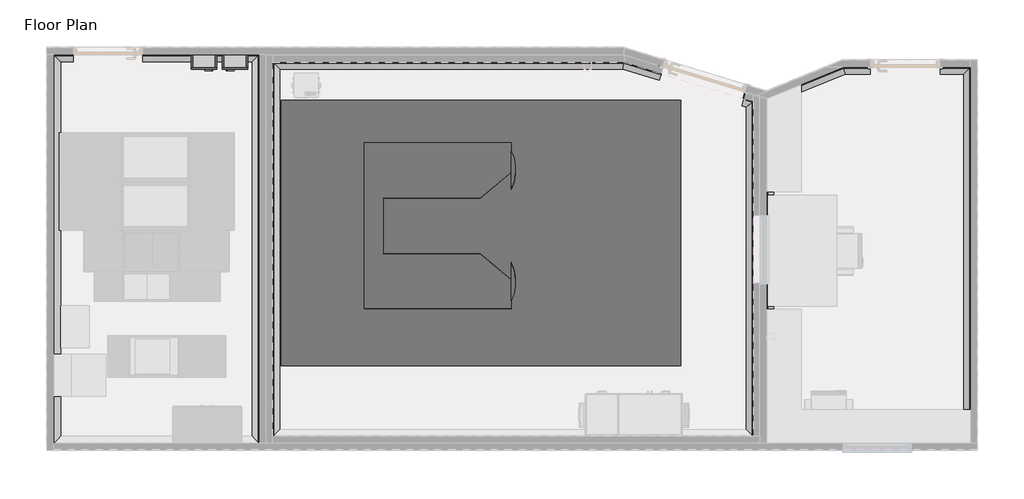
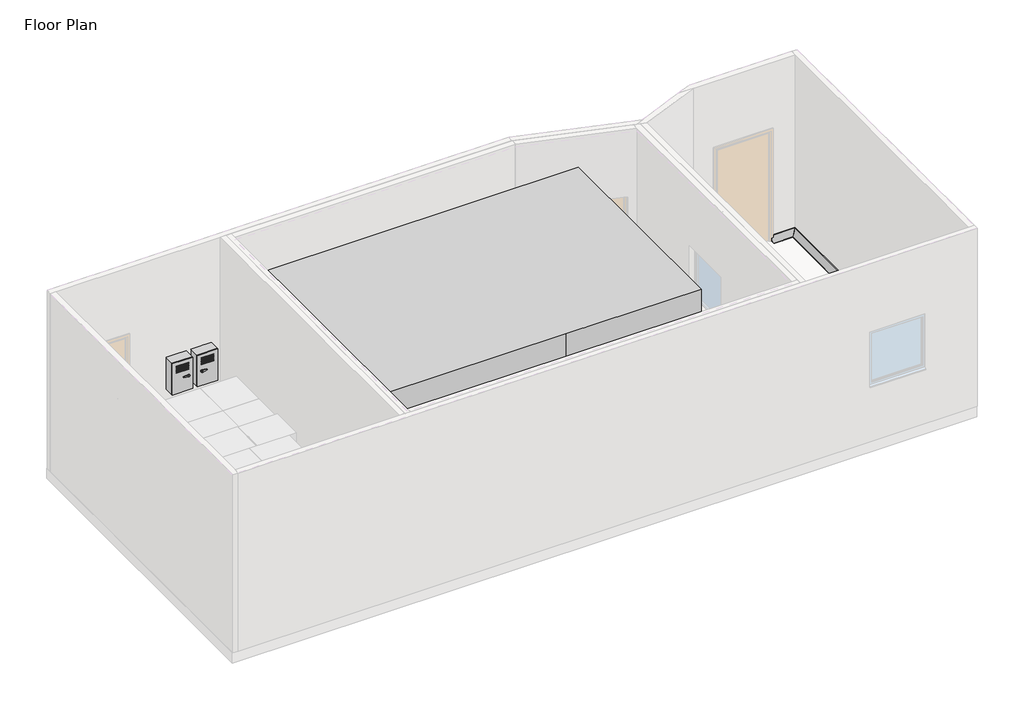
# One storey, part 2 of 2: 14 proxies.
"""IFC4 building model written with IfcOpenShell, lengths in millimetres."""

from ifc_helpers import new_model, si_unit, point, frame, frame_2d, origin, place, context, project, spatial, polyline, circle_curve, ellipse_curve, trimmed, segment, composite_curve, outline, extrude, transform, mapped, element, save
from ifc_brep_helpers import plane_surface, revolved_surface, advanced_brep
from components import generic_models_8b75f9c6, type_1_a1218392

model = new_model("IFC4")

# Units and contexts
model_context = context("Model", 3, world=origin())
ifc_project = project(units=[si_unit("LENGTHUNIT", "METRE", prefix="MILLI")], contexts=[model_context])

# Site, building, storey
site = spatial("IfcSite", under=ifc_project)
building = spatial("IfcBuilding", under=site)
storey = spatial("IfcBuildingStorey", under=building, Name="Floor Plan", Elevation=0.0)

# Proxies
placement = place(None, origin())
element("IfcBuildingElementProxy", 1, Name="Wall Sweeps", at=placement, inside=storey, context=model_context, shape_type="AdvancedBrep", body=[
    advanced_brep(
    [(-3162.5889003, 5094.3216085, 0.0), (-3162.5889003, 5094.3216085, 100.0), (-3152.5889003, 5084.3216085, 100.0), (-3062.5889003, 4994.3216085, 10.0), (-3062.5889003, 4994.3216085, 0.0), (-3162.5889003, -523.5240993, 0.0), (-3062.5889003, -423.5240993, 0.0), (-3062.5889003, -423.5240993, 10.0), (-3152.5889003, -513.5240993, 100.0), (-3162.5889003, -523.5240993, 100.0)],
    [
        (0, 1),
        (1, 2),
        (2, 3, ellipse_curve(frame((-3062.5889003, 4994.3216085, 100.0), z_axis=(-0.7071067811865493, -0.7071067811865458, 0.0), x_axis=(0.7071067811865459, -0.7071067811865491, 0.0)), 127.2792206, 90.0)),
        (3, 4),
        (4, 0),
        (5, 6),
        (6, 7),
        (7, 8, ellipse_curve(frame((-3062.5889003, -423.5240993, 100.0), z_axis=(-0.7071067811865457, 0.7071067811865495, 0.0), x_axis=(-0.7071067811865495, -0.7071067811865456, 0.0)), 127.2792206, 90.0)),
        (8, 9),
        (9, 5),
        (0, 5),
        (9, 1),
        (8, 2),
        (7, 3),
        (6, 4),
    ],
    [
        plane_surface(frame((-3162.5889003, 5094.3216085, -304.8), z_axis=(0.7071067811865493, 0.7071067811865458, 0.0), x_axis=(0.7071067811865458, -0.7071067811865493, 0.0))),
        plane_surface(frame((-3162.5889003, -523.5240993, -304.8), z_axis=(0.7071067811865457, -0.7071067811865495, 0.0), x_axis=(0.7071067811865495, 0.7071067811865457, 0.0))),
        plane_surface(frame((-3162.5889003, 5094.3216085, 0.0), z_axis=(-1.0, 0.0, 0.0), x_axis=(0.0, -1.0, 0.0))),
        plane_surface(frame((-3162.5889003, 5094.3216085, 100.0), z_axis=(0.0, 0.0, 1.0), x_axis=(0.0, -1.0, 0.0))),
        revolved_surface(polyline([(-2972.5889003, -513.5240992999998, 100.0), (-2972.5889003, 5084.3216085, 100.0)]), (-3062.5889003, 5094.3216085, 100.0), (0.0, -1.0, 0.0)),
        plane_surface(frame((-3062.5889003, 4994.3216085, 10.0), z_axis=(1.0, 0.0, 0.0), x_axis=(0.0, -1.0, 0.0))),
        plane_surface(frame((-3062.5889003, 4994.3216085, 0.0), z_axis=(0.0, 0.0, -1.0), x_axis=(0.0, -1.0, 0.0))),
    ],
    [
        (0, [[1, 2, 3, 4, 5]]),
        (1, [[6, 7, 8, 9, 10]]),
        (2, [[-1, 11, -10, 12]]),
        (3, [[-2, -12, -9, 13]]),
        (4, [[-3, -13, -8, 14]]),
        (5, [[-4, -14, -7, 15]]),
        (6, [[-5, -15, -6, -11]]),
    ],
),
])
element("IfcBuildingElementProxy", 2, Name="Wall Sweeps", at=placement, inside=storey, context=model_context, shape_type="AdvancedBrep", body=[
    advanced_brep(
    [(10093.9110997, -523.5240993, 0.0), (10093.9110997, -523.5240993, 100.0), (10083.9110997, -513.5240993, 100.0), (9993.9110997, -423.5240993, 10.0), (9993.9110997, -423.5240993, 0.0), (10093.9110997, 4913.3550679, 0.0), (9993.9110997, 4813.3550679, 0.0), (9993.9110997, 4813.3550679, 10.0), (10083.9110997, 4903.3550679, 100.0), (10093.9110997, 4913.3550679, 100.0)],
    [
        (0, 1),
        (1, 2),
        (2, 3, ellipse_curve(frame((9993.9110997, -423.5240993, 100.0), z_axis=(0.7071067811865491, 0.707106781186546, 0.0), x_axis=(-0.707106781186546, 0.7071067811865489, 0.0)), 127.2792206, 90.0)),
        (3, 4),
        (4, 0),
        (5, 6),
        (6, 7),
        (7, 8, ellipse_curve(frame((9993.9110997, 4813.3550679, 100.0), z_axis=(0.7071067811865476, -0.7071067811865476, 0.0), x_axis=(0.7071067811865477, 0.7071067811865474, 0.0)), 127.2792206, 90.0)),
        (8, 9),
        (9, 5),
        (0, 5),
        (9, 1),
        (8, 2),
        (7, 3),
        (6, 4),
    ],
    [
        plane_surface(frame((10093.9110997, -523.5240993, -304.8), z_axis=(-0.7071067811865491, -0.707106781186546, 0.0), x_axis=(-0.707106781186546, 0.7071067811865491, 0.0))),
        plane_surface(frame((10093.9110997, 4913.3550679, -304.8), z_axis=(-0.7071067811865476, 0.7071067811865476, 0.0), x_axis=(-0.7071067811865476, -0.7071067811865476, 0.0))),
        plane_surface(frame((10093.9110997, -523.5240993, 0.0), z_axis=(1.0, 0.0, 0.0), x_axis=(0.0, 1.0, 0.0))),
        plane_surface(frame((10093.9110997, -523.5240993, 100.0), z_axis=(0.0, 0.0, 1.0), x_axis=(0.0, 1.0, 0.0))),
        revolved_surface(polyline([(9903.9110997, 4903.3550679, 100.0), (9903.9110997, -513.5240993, 100.0)]), (9993.9110997, -523.5240993, 100.0), (0.0, 1.0, 0.0)),
        plane_surface(frame((9993.9110997, -423.5240993, 10.0), z_axis=(-1.0, 0.0, 0.0), x_axis=(0.0, 1.0, 0.0))),
        plane_surface(frame((9993.9110997, -423.5240993, 0.0), z_axis=(0.0, 0.0, -1.0), x_axis=(0.0, 1.0, 0.0))),
    ],
    [
        (0, [[1, 2, 3, 4, 5]]),
        (1, [[6, 7, 8, 9, 10]]),
        (2, [[-1, 11, -10, 12]]),
        (3, [[-2, -12, -9, 13]]),
        (4, [[-3, -13, -8, 14]]),
        (5, [[-4, -14, -7, 15]]),
        (6, [[-5, -15, -6, -11]]),
    ],
),
])
element("IfcBuildingElementProxy", 3, Name="Wall Sweeps", at=placement, inside=storey, context=model_context, shape_type="AdvancedBrep", body=[
    advanced_brep(
    [(8643.9110997, 4913.3550679, 0.0), (8643.9110997, 4913.3550679, 100.0), (8643.9110997, 4903.3550679, 100.0), (8643.9110997, 4813.3550679, 10.0), (8643.9110997, 4813.3550679, 0.0), (8260.4584531, 4913.3550679, 0.0), (8280.1050493, 4813.3550679, 0.0), (8280.1050493, 4813.3550679, 10.0), (8262.4231127, 4903.3550679, 100.0), (8260.4584531, 4913.3550679, 100.0)],
    [
        (0, 1),
        (1, 2),
        (2, 3, circle_curve(frame((8643.9110997, 4813.3550679, 100.0), z_axis=(-1.0, 0.0, 0.0), x_axis=(0.0, -1.0, 0.0)), 90.0)),
        (3, 4),
        (4, 0),
        (5, 6),
        (6, 7),
        (7, 8, ellipse_curve(frame((8280.1050493, 4813.3550679, 100.0), z_axis=(0.981241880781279, 0.19278063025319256, 0.0), x_axis=(-0.19278063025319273, 0.9812418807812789, 0.0)), 91.7205042, 90.0)),
        (8, 9),
        (9, 5),
        (0, 5),
        (9, 1),
        (8, 2),
        (7, 3),
        (6, 4),
    ],
    [
        plane_surface(frame((8643.9110997, 4913.3550679, -100.4987562), z_axis=(1.0, 0.0, 0.0), x_axis=(0.0, -1.0, 0.0))),
        plane_surface(frame((8260.4584531, 4913.3550679, -304.8), z_axis=(-0.981241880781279, -0.19278063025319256, 0.0), x_axis=(0.19278063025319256, -0.981241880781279, 0.0))),
        plane_surface(frame((8643.9110997, 4913.3550679, 0.0), z_axis=(0.0, 1.0, 0.0), x_axis=(-1.0, 0.0, 0.0))),
        plane_surface(frame((8643.9110997, 4913.3550679, 100.0), z_axis=(0.0, 0.0, 1.0), x_axis=(-1.0, 0.0, 0.0))),
        revolved_surface(polyline([(8262.423112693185, 4723.3550679, 100.0), (8643.9110997, 4723.3550679, 100.0)]), (8643.9110997, 4813.3550679, 100.0), (-1.0, 0.0, 0.0)),
        plane_surface(frame((8643.9110997, 4813.3550679, 10.0), z_axis=(0.0, -1.0, 0.0), x_axis=(-1.0, 0.0, 0.0))),
        plane_surface(frame((8643.9110997, 4813.3550679, 0.0), z_axis=(0.0, 0.0, -1.0), x_axis=(-1.0, 0.0, 0.0))),
    ],
    [
        (0, [[1, 2, 3, 4, 5]]),
        (1, [[6, 7, 8, 9, 10]]),
        (2, [[-1, 11, -10, 12]]),
        (3, [[-2, -12, -9, 13]]),
        (4, [[-3, -13, -8, 14]]),
        (5, [[-4, -14, -7, 15]]),
        (6, [[-5, -15, -6, -11]]),
    ],
),
    advanced_brep(
    [(10093.9110997, 4913.3550679, 0.0), (10093.9110997, 4913.3550679, 100.0), (10083.9110997, 4903.3550679, 100.0), (9993.9110997, 4813.3550679, 10.0), (9993.9110997, 4813.3550679, 0.0), (9653.9110997, 4913.3550679, 0.0), (9653.9110997, 4813.3550679, 0.0), (9653.9110997, 4813.3550679, 10.0), (9653.9110997, 4903.3550679, 100.0), (9653.9110997, 4913.3550679, 100.0)],
    [
        (0, 1),
        (1, 2),
        (2, 3, ellipse_curve(frame((9993.9110997, 4813.3550679, 100.0), z_axis=(-0.7071067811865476, 0.7071067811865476, 0.0), x_axis=(-0.7071067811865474, -0.7071067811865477, 0.0)), 127.2792206, 90.0)),
        (3, 4),
        (4, 0),
        (5, 6),
        (6, 7),
        (7, 8, circle_curve(frame((9653.9110997, 4813.3550679, 100.0), z_axis=(1.0, 0.0, 0.0), x_axis=(0.0, -1.0, 0.0)), 90.0)),
        (8, 9),
        (9, 5),
        (0, 5),
        (9, 1),
        (8, 2),
        (7, 3),
        (6, 4),
    ],
    [
        plane_surface(frame((10093.9110997, 4913.3550679, -304.8), z_axis=(0.7071067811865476, -0.7071067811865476, 0.0), x_axis=(-0.7071067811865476, -0.7071067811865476, 0.0))),
        plane_surface(frame((9653.9110997, 4913.3550679, -100.4987562), z_axis=(-1.0, 0.0, 0.0), x_axis=(0.0, -1.0, 0.0))),
        plane_surface(frame((10093.9110997, 4913.3550679, 0.0), z_axis=(0.0, 1.0, 0.0), x_axis=(-1.0, 0.0, 0.0))),
        plane_surface(frame((10093.9110997, 4913.3550679, 100.0), z_axis=(0.0, 0.0, 1.0), x_axis=(-1.0, 0.0, 0.0))),
        revolved_surface(polyline([(9653.9110997, 4723.3550679, 100.0), (10083.9110997, 4723.3550679, 100.0)]), (10093.9110997, 4813.3550679, 100.0), (-1.0, 0.0, 0.0)),
        plane_surface(frame((9993.9110997, 4813.3550679, 10.0), z_axis=(0.0, -1.0, 0.0), x_axis=(-1.0, 0.0, 0.0))),
        plane_surface(frame((9993.9110997, 4813.3550679, 0.0), z_axis=(0.0, 0.0, -1.0), x_axis=(-1.0, 0.0, 0.0))),
    ],
    [
        (0, [[1, 2, 3, 4, 5]]),
        (1, [[6, 7, 8, 9, 10]]),
        (2, [[-1, 11, -10, 12]]),
        (3, [[-2, -12, -9, 13]]),
        (4, [[-3, -13, -8, 14]]),
        (5, [[-4, -14, -7, 15]]),
        (6, [[-5, -15, -6, -11]]),
    ],
),
])
element("IfcBuildingElementProxy", 4, Name="Wall Sweeps", at=placement, inside=storey, context=model_context, shape_type="AdvancedBrep", body=[
    advanced_brep(
    [(8260.4584531, 4913.3550679, 0.0), (8260.4584531, 4913.3550679, 100.0), (8262.4231127, 4903.3550679, 100.0), (8280.1050493, 4813.3550679, 10.0), (8280.1050493, 4813.3550679, 0.0), (7148.6928682, 4458.9680498, 0.0), (7248.6928682, 4391.8090947, 0.0), (7248.6928682, 4391.8090947, 10.0), (7158.6928682, 4452.2521543, 100.0), (7148.6928682, 4458.9680498, 100.0)],
    [
        (0, 1),
        (1, 2),
        (2, 3, ellipse_curve(frame((8280.1050493, 4813.3550679, 100.0), z_axis=(-0.981241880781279, -0.19278063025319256, 0.0), x_axis=(0.19278063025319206, -0.9812418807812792, 0.0)), 91.7205042, 90.0)),
        (3, 4),
        (4, 0),
        (5, 6),
        (6, 7),
        (7, 8, ellipse_curve(frame((7248.6928682, 4391.8090947, 100.0), z_axis=(0.5575262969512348, 0.8301592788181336, 0.0), x_axis=(-0.8301592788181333, 0.5575262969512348, 0.0)), 108.4129303, 90.0)),
        (8, 9),
        (9, 5),
        (0, 5),
        (9, 1),
        (8, 2),
        (7, 3),
        (6, 4),
    ],
    [
        plane_surface(frame((8260.4584531, 4913.3550679, -304.8), z_axis=(0.981241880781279, 0.19278063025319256, 0.0), x_axis=(0.19278063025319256, -0.981241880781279, 0.0))),
        plane_surface(frame((7148.6928682, 4458.9680498, -304.8), z_axis=(-0.5575262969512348, -0.8301592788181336, 0.0), x_axis=(0.8301592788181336, -0.5575262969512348, 0.0))),
        plane_surface(frame((8260.4584531, 4913.3550679, 0.0), z_axis=(-0.37832885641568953, 0.9256712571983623, 0.0), x_axis=(-0.9256712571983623, -0.37832885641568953, 0.0))),
        plane_surface(frame((8260.4584531, 4913.3550679, 100.0), z_axis=(0.0, 0.0, 1.0), x_axis=(-0.9256712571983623, -0.37832885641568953, 0.0))),
        revolved_surface(polyline([(7226.792062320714, 4285.63132798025, 100.0), (8330.522306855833, 4736.734241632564, 100.0)]), (8298.2913387, 4820.7879422, 100.0), (-0.9256712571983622, -0.37832885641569, 0.0)),
        plane_surface(frame((8280.1050493, 4813.3550679, 10.0), z_axis=(0.3783288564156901, -0.9256712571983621, 0.0), x_axis=(-0.9256712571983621, -0.3783288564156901, 0.0))),
        plane_surface(frame((8280.1050493, 4813.3550679, 0.0), z_axis=(0.0, 0.0, -1.0), x_axis=(-0.9256712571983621, -0.3783288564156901, 0.0))),
    ],
    [
        (0, [[1, 2, 3, 4, 5]]),
        (1, [[6, 7, 8, 9, 10]]),
        (2, [[-1, 11, -10, 12]]),
        (3, [[-2, -12, -9, 13]]),
        (4, [[-3, -13, -8, 14]]),
        (5, [[-4, -14, -7, 15]]),
        (6, [[-5, -15, -6, -11]]),
    ],
),
])
element("IfcBuildingElementProxy", 5, Name="Wall Sweeps", at=placement, inside=storey, context=model_context, shape_type="AdvancedBrep", body=[
    advanced_brep(
    [(5637.0368187, 4921.1276839, 0.0), (5637.0368187, 4921.1276839, 100.0), (5634.1131016, 4911.5646364, 100.0), (5607.7996482, 4825.4972083, 10.0), (5607.7996482, 4825.4972083, 0.0), (5070.545017, 5094.3216085, 0.0), (5055.5999169, 4994.3216085, 0.0), (5055.5999169, 4994.3216085, 10.0), (5069.050507, 5084.3216085, 100.0), (5070.545017, 5094.3216085, 100.0)],
    [
        (0, 1),
        (1, 2),
        (2, 3, circle_curve(frame((5607.7996482, 4825.4972083, 100.0), z_axis=(-0.9563047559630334, 0.29237170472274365, 0.0), x_axis=(-0.29237170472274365, -0.9563047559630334, 0.0)), 90.0)),
        (3, 4),
        (4, 0),
        (5, 6),
        (6, 7),
        (7, 8, ellipse_curve(frame((5055.5999169, 4994.3216085, 100.0), z_axis=(0.9890158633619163, -0.14780941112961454, 0.0), x_axis=(0.14780941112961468, 0.9890158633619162, 0.0)), 90.9995515, 90.0)),
        (8, 9),
        (9, 5),
        (0, 5),
        (9, 1),
        (8, 2),
        (7, 3),
        (6, 4),
    ],
    [
        plane_surface(frame((5637.0368187, 4921.1276839, 100.4987562), z_axis=(0.9563047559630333, -0.2923717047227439, 0.0), x_axis=(0.2923717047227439, 0.9563047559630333, 0.0))),
        plane_surface(frame((5070.545017, 5094.3216085, -304.8), z_axis=(-0.9890158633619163, 0.14780941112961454, 0.0), x_axis=(-0.14780941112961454, -0.9890158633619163, 0.0))),
        plane_surface(frame((5637.0368187, 4921.1276839, 0.0), z_axis=(0.29237170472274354, 0.9563047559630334, 0.0), x_axis=(-0.9563047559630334, 0.29237170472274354, 0.0))),
        plane_surface(frame((5637.0368187, 4921.1276839, 100.0), z_axis=(0.0, 0.0, 1.0), x_axis=(-0.9563047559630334, 0.29237170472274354, 0.0))),
        revolved_surface(polyline([(5016.423600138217, 4912.18675238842, 100.0), (5581.486194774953, 4739.429780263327, 100.0)]), (5607.7996482, 4825.4972083, 100.0), (-0.9563047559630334, 0.29237170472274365, 0.0)),
        plane_surface(frame((5607.7996482, 4825.4972083, 10.0), z_axis=(-0.2923717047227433, -0.9563047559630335, 0.0), x_axis=(-0.9563047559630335, 0.2923717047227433, 0.0))),
        plane_surface(frame((5607.7996482, 4825.4972083, 0.0), z_axis=(0.0, 0.0, -1.0000000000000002), x_axis=(-0.9563047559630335, 0.2923717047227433, 0.0))),
    ],
    [
        (0, [[1, 2, 3, 4, 5]]),
        (1, [[6, 7, 8, 9, 10]]),
        (2, [[-1, 11, -10, 12]]),
        (3, [[-2, -12, -9, 13]]),
        (4, [[-3, -13, -8, 14]]),
        (5, [[-4, -14, -7, 15]]),
        (6, [[-5, -15, -6, -11]]),
    ],
),
    advanced_brep(
    [(7148.6928682, 4458.9680498, 0.0), (7148.6928682, 4458.9680498, 100.0), (7149.1772399, 4448.3630449, 100.0), (7153.5365857, 4352.9180011, 10.0), (7153.5365857, 4352.9180011, 0.0), (6832.4177636, 4555.663053, 0.0), (6803.1805932, 4460.0325774, 0.0), (6803.1805932, 4460.0325774, 10.0), (6829.4940466, 4546.1000055, 100.0), (6832.4177636, 4555.663053, 100.0), (6997.4835628, 4505.1973737, 0.0)],
    [
        (0, 1),
        (1, 2),
        (2, 3, ellipse_curve(frame((7153.5365857, 4352.9180011, 100.0), z_axis=(-0.9989585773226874, -0.045626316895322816, 0.0), x_axis=(-0.04562631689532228, 0.9989585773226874, 0.0)), 95.5445461, 90.0)),
        (3, 4),
        (4, 0),
        (5, 6),
        (6, 7),
        (7, 8, circle_curve(frame((6803.1805932, 4460.0325774, 100.0), z_axis=(0.9563047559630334, -0.29237170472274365, 0.0), x_axis=(-0.29237170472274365, -0.9563047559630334, 0.0)), 90.0)),
        (8, 9),
        (9, 5),
        (0, 10),
        (10, 5),
        (9, 1),
        (8, 2),
        (7, 3),
        (6, 4),
    ],
    [
        plane_surface(frame((7148.6928682, 4458.9680498, 304.8), z_axis=(0.9989585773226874, 0.045626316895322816, 0.0), x_axis=(-0.045626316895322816, 0.9989585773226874, 0.0))),
        plane_surface(frame((6832.4177636, 4555.663053, 100.4987562), z_axis=(-0.9563047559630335, 0.2923717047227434, 0.0), x_axis=(0.2923717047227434, 0.9563047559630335, 0.0))),
        plane_surface(frame((7148.6928682, 4458.9680498, 0.0), z_axis=(0.29237170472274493, 0.956304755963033, 0.0), x_axis=(-0.956304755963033, 0.29237170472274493, 0.0))),
        plane_surface(frame((7148.6928682, 4458.9680498, 100.0), z_axis=(0.0, 0.0, 1.0), x_axis=(-0.956304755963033, 0.29237170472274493, 0.0))),
        revolved_surface(polyline([(6776.867139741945, 4373.965149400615, 100.0), (7157.89593143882, 4257.472957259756, 100.0)]), (7119.4556977, 4363.3375742, 100.0), (-0.9563047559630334, 0.29237170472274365, 0.0)),
        plane_surface(frame((7153.5365857, 4352.9180011, 10.0), z_axis=(-0.2923717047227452, -0.9563047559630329, 0.0), x_axis=(-0.9563047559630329, 0.2923717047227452, 0.0))),
        plane_surface(frame((7153.5365857, 4352.9180011, 0.0), z_axis=(0.0, 0.0, -1.0), x_axis=(-0.9563047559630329, 0.2923717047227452, 0.0))),
    ],
    [
        (0, [[1, 2, 3, 4, 5]]),
        (1, [[6, 7, 8, 9, 10]]),
        (2, [[-1, 11, 12, -10, 13]]),
        (3, [[-2, -13, -9, 14]]),
        (4, [[-3, -14, -8, 15]]),
        (5, [[-4, -15, -7, 16]]),
        (6, [[-5, -16, -6, -12, -11]]),
    ],
),
])
element("IfcBuildingElementProxy", 6, Name="Wall Sweeps", at=placement, inside=storey, context=model_context, shape_type="AdvancedBrep", body=[
    advanced_brep(
    [(-2882.5889003, 5094.3216085, 0.0), (-2882.5889003, 5094.3216085, 100.0), (-2882.5889003, 5084.3216085, 100.0), (-2882.5889003, 4994.3216085, 10.0), (-2882.5889003, 4994.3216085, 0.0), (-3162.5889003, 5094.3216085, 0.0), (-3062.5889003, 4994.3216085, 0.0), (-3062.5889003, 4994.3216085, 10.0), (-3152.5889003, 5084.3216085, 100.0), (-3162.5889003, 5094.3216085, 100.0)],
    [
        (0, 1),
        (1, 2),
        (2, 3, circle_curve(frame((-2882.5889003, 4994.3216085, 100.0), z_axis=(-1.0, 0.0, 0.0), x_axis=(0.0, -1.0, 0.0)), 90.0)),
        (3, 4),
        (4, 0),
        (5, 6),
        (6, 7),
        (7, 8, ellipse_curve(frame((-3062.5889003, 4994.3216085, 100.0), z_axis=(0.7071067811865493, 0.7071067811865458, 0.0), x_axis=(-0.7071067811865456, 0.7071067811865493, 0.0)), 127.2792206, 90.0)),
        (8, 9),
        (9, 5),
        (0, 5),
        (9, 1),
        (8, 2),
        (7, 3),
        (6, 4),
    ],
    [
        plane_surface(frame((-2882.5889003, 5094.3216085, -100.4987562), z_axis=(1.0, 0.0, 0.0), x_axis=(0.0, -1.0, 0.0))),
        plane_surface(frame((-3162.5889003, 5094.3216085, -304.8), z_axis=(-0.7071067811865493, -0.7071067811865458, 0.0), x_axis=(0.7071067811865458, -0.7071067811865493, 0.0))),
        plane_surface(frame((-2882.5889003, 5094.3216085, 0.0), z_axis=(0.0, 1.0, 0.0), x_axis=(-1.0, 0.0, 0.0))),
        plane_surface(frame((-2882.5889003, 5094.3216085, 100.0), z_axis=(0.0, 0.0, 1.0), x_axis=(-1.0, 0.0, 0.0))),
        revolved_surface(polyline([(-3152.5889003, 4904.3216085, 100.0), (-2882.5889003, 4904.3216085, 100.0)]), (-2882.5889003, 4994.3216085, 100.0), (-1.0, 0.0, 0.0)),
        plane_surface(frame((-2882.5889003, 4994.3216085, 10.0), z_axis=(0.0, -1.0, 0.0), x_axis=(-1.0, 0.0, 0.0))),
        plane_surface(frame((-2882.5889003, 4994.3216085, 0.0), z_axis=(0.0, 0.0, -1.0), x_axis=(-1.0, 0.0, 0.0))),
    ],
    [
        (0, [[1, 2, 3, 4, 5]]),
        (1, [[6, 7, 8, 9, 10]]),
        (2, [[-1, 11, -10, 12]]),
        (3, [[-2, -12, -9, 13]]),
        (4, [[-3, -13, -8, 14]]),
        (5, [[-4, -14, -7, 15]]),
        (6, [[-5, -15, -6, -11]]),
    ],
),
    advanced_brep(
    [(5070.545017, 5094.3216085, 0.0), (5070.545017, 5094.3216085, 100.0), (5069.050507, 5084.3216085, 100.0), (5055.5999169, 4994.3216085, 10.0), (5055.5999169, 4994.3216085, 0.0), (-1872.5889003, 5094.3216085, 0.0), (-1872.5889003, 4994.3216085, 0.0), (-1872.5889003, 4994.3216085, 10.0), (-1872.5889003, 5084.3216085, 100.0), (-1872.5889003, 5094.3216085, 100.0)],
    [
        (0, 1),
        (1, 2),
        (2, 3, ellipse_curve(frame((5055.5999169, 4994.3216085, 100.0), z_axis=(-0.9890158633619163, 0.14780941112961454, 0.0), x_axis=(-0.1478094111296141, -0.9890158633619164, 0.0)), 90.9995515, 90.0)),
        (3, 4),
        (4, 0),
        (5, 6),
        (6, 7),
        (7, 8, circle_curve(frame((-1872.5889003, 4994.3216085, 100.0), z_axis=(1.0, 0.0, 0.0), x_axis=(0.0, -1.0, 0.0)), 90.0)),
        (8, 9),
        (9, 5),
        (0, 5),
        (9, 1),
        (8, 2),
        (7, 3),
        (6, 4),
    ],
    [
        plane_surface(frame((5070.545017, 5094.3216085, -304.8), z_axis=(0.9890158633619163, -0.14780941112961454, 0.0), x_axis=(-0.14780941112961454, -0.9890158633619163, 0.0))),
        plane_surface(frame((-1872.5889003, 5094.3216085, -100.4987562), z_axis=(-1.0, 0.0, 0.0), x_axis=(0.0, -1.0, 0.0))),
        plane_surface(frame((5070.545017, 5094.3216085, 0.0), z_axis=(0.0, 1.0, 0.0), x_axis=(-1.0, 0.0, 0.0))),
        plane_surface(frame((5070.545017, 5094.3216085, 100.0), z_axis=(0.0, 0.0, 1.0), x_axis=(-1.0, 0.0, 0.0))),
        revolved_surface(polyline([(-1872.5889003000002, 4904.3216085, 100.0), (5069.0505070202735, 4904.3216085, 100.0)]), (5070.545017, 4994.3216085, 100.0), (-1.0, 0.0, 0.0)),
        plane_surface(frame((5055.5999169, 4994.3216085, 10.0), z_axis=(0.0, -1.0, 0.0), x_axis=(-1.0, 0.0, 0.0))),
        plane_surface(frame((5055.5999169, 4994.3216085, 0.0), z_axis=(0.0, 0.0, -1.0), x_axis=(-1.0, 0.0, 0.0))),
    ],
    [
        (0, [[1, 2, 3, 4, 5]]),
        (1, [[6, 7, 8, 9, 10]]),
        (2, [[-1, 11, -10, 12]]),
        (3, [[-2, -12, -9, 13]]),
        (4, [[-3, -13, -8, 14]]),
        (5, [[-4, -14, -7, 15]]),
        (6, [[-5, -15, -6, -11]]),
    ],
),
])
element("IfcBuildingElementProxy", 7, Name="Wall Sweeps", at=placement, inside=storey, context=model_context, shape_type="SweptSolid", body=[
    extrude(outline(composite_curve([segment(polyline([(0.0, -193.4119427), (100.0, -193.4119427), (100.0, -203.4119427)]), True, "CONTINUOUS"), segment(trimmed(circle_curve(frame_2d((100.0, -293.4119427)), 90.0), [point((100.0, -203.4119427))], [point((10.0, -293.4119427))], True, "CARTESIAN"), True, "CONTINUOUS"), segment(polyline([(10.0, -293.4119427), (0.0, -293.4119427), (0.0, -193.4119427)]), True, "CONTINUOUS")], self_intersect=False)), frame((0.0, -513.5240993, 0.0), z_axis=(0.0, 1.0, 0.0), x_axis=(0.0, 0.0, 1.0)), (0.0, 0.0, 1.0), 5607.8457077),
])
element("IfcBuildingElementProxy", 8, Name="Wall Sweeps", at=placement, inside=storey, context=model_context, shape_type="AdvancedBrep", body=[
    advanced_brep(
    [(7148.6928682, 4458.9680498, 0.0), (7148.6928682, 4458.9680498, 100.0), (7158.6928682, 4452.2521543, 100.0), (7248.6928682, 4391.8090947, 10.0), (7248.6928682, 4391.8090947, 0.0), (7148.6928682, -523.5240993, 0.0), (7248.6928682, -523.5240993, 0.0), (7248.6928682, -523.5240993, 10.0), (7158.6928682, -523.5240993, 100.0), (7148.6928682, -523.5240993, 100.0), (7148.6928682, 4354.3988741, 0.0)],
    [
        (0, 1),
        (1, 2),
        (2, 3, ellipse_curve(frame((7248.6928682, 4391.8090947, 100.0), z_axis=(-0.5575262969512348, -0.8301592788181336, 0.0), x_axis=(0.8301592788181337, -0.5575262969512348, 0.0)), 108.4129303, 90.0)),
        (3, 4),
        (4, 0),
        (5, 6),
        (6, 7),
        (7, 8, circle_curve(frame((7248.6928682, -523.5240993, 100.0), z_axis=(0.0, 1.0, 0.0), x_axis=(1.0, 0.0, 0.0)), 90.0)),
        (8, 9),
        (9, 5),
        (0, 10),
        (10, 5),
        (9, 1),
        (8, 2),
        (7, 3),
        (6, 4),
    ],
    [
        plane_surface(frame((7148.6928682, 4458.9680498, -304.8), z_axis=(0.5575262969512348, 0.8301592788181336, 0.0), x_axis=(0.8301592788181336, -0.5575262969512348, 0.0))),
        plane_surface(frame((7048.194112, -523.5240993, 0.0), z_axis=(0.0, -1.0, 0.0), x_axis=(0.0, 0.0, -1.0))),
        plane_surface(frame((7148.6928682, 4458.9680498, 0.0), z_axis=(-1.0, 0.0, 0.0), x_axis=(0.0, -1.0, 0.0))),
        plane_surface(frame((7148.6928682, 4458.9680498, 100.0), z_axis=(0.0, 0.0, 1.0), x_axis=(0.0, -1.0, 0.0))),
        revolved_surface(polyline([(7338.6928682, -523.5240992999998, 100.0), (7338.6928682, 4452.2521543, 100.0)]), (7248.6928682, 4458.9680498, 100.0), (0.0, -1.0, 0.0)),
        plane_surface(frame((7248.6928682, 4391.8090947, 10.0), z_axis=(1.0, 0.0, 0.0), x_axis=(0.0, -1.0, 0.0))),
        plane_surface(frame((7248.6928682, 4391.8090947, 0.0), z_axis=(0.0, 0.0, -1.0), x_axis=(0.0, -1.0, 0.0))),
    ],
    [
        (0, [[1, 2, 3, 4, 5]]),
        (1, [[6, 7, 8, 9, 10]]),
        (2, [[-1, 11, 12, -10, 13]]),
        (3, [[-2, -13, -9, 14]]),
        (4, [[-3, -14, -8, 15]]),
        (5, [[-4, -15, -7, 16]]),
        (6, [[-5, -16, -6, -12, -11]]),
    ],
),
])
element("IfcBuildingElementProxy", 9, Name="Wall Sweeps", at=placement, inside=storey, context=model_context, shape_type="AdvancedBrep", body=[
    advanced_brep(
    [(6.5880573, 4986.0709051, 0.0), (6.5880573, 4986.0709051, 100.0), (16.5880573, 4976.0709051, 100.0), (106.5880573, 4886.0709051, 10.0), (106.5880573, 4886.0709051, 0.0), (6.5880573, -423.5240993, 0.0), (106.5880573, -323.5240993, 0.0), (106.5880573, -323.5240993, 10.0), (16.5880573, -413.5240993, 100.0), (6.5880573, -423.5240993, 100.0)],
    [
        (0, 1),
        (1, 2),
        (2, 3, ellipse_curve(frame((106.5880573, 4886.0709051, 100.0), z_axis=(-0.7071067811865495, -0.7071067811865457, 0.0), x_axis=(0.7071067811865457, -0.7071067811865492, 0.0)), 127.2792206, 90.0)),
        (3, 4),
        (4, 0),
        (5, 6),
        (6, 7),
        (7, 8, ellipse_curve(frame((106.5880573, -323.5240993, 100.0), z_axis=(-0.7071067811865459, 0.7071067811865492, 0.0), x_axis=(-0.7071067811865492, -0.7071067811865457, 0.0)), 127.2792206, 90.0)),
        (8, 9),
        (9, 5),
        (0, 5),
        (9, 1),
        (8, 2),
        (7, 3),
        (6, 4),
    ],
    [
        plane_surface(frame((6.5880573, 4986.0709051, -304.8), z_axis=(0.7071067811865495, 0.7071067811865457, 0.0), x_axis=(0.7071067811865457, -0.7071067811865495, 0.0))),
        plane_surface(frame((6.5880573, -423.5240993, -304.8), z_axis=(0.7071067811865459, -0.7071067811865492, 0.0), x_axis=(0.7071067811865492, 0.7071067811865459, 0.0))),
        plane_surface(frame((6.5880573, 4986.0709051, 0.0), z_axis=(-1.0, 0.0, 0.0), x_axis=(0.0, -1.0, 0.0))),
        plane_surface(frame((6.5880573, 4986.0709051, 100.0), z_axis=(0.0, 0.0, 1.0), x_axis=(0.0, -1.0, 0.0))),
        revolved_surface(polyline([(196.5880573, -413.52409929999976, 100.0), (196.5880573, 4976.0709051, 100.0)]), (106.5880573, 4986.0709051, 100.0), (0.0, -1.0, 0.0)),
        plane_surface(frame((106.5880573, 4886.0709051, 10.0), z_axis=(1.0, 0.0, 0.0), x_axis=(0.0, -1.0, 0.0))),
        plane_surface(frame((106.5880573, 4886.0709051, 0.0), z_axis=(0.0, 0.0, -1.0), x_axis=(0.0, -1.0, 0.0))),
    ],
    [
        (0, [[1, 2, 3, 4, 5]]),
        (1, [[6, 7, 8, 9, 10]]),
        (2, [[-1, 11, -10, 12]]),
        (3, [[-2, -12, -9, 13]]),
        (4, [[-3, -13, -8, 14]]),
        (5, [[-4, -14, -7, 15]]),
        (6, [[-5, -15, -6, -11]]),
    ],
),
])
element("IfcBuildingElementProxy", 10, Name="Wall Sweeps", at=placement, inside=storey, context=model_context, shape_type="AdvancedBrep", body=[
    advanced_brep(
    [(6948.6928682, -423.5240993, 0.0), (6948.6928682, -423.5240993, 100.0), (6938.6928682, -413.5240993, 100.0), (6848.6928682, -323.5240993, 10.0), (6848.6928682, -323.5240993, 0.0), (6948.6928682, 4413.9916621, 0.0), (6848.6928682, 4339.9955546, 0.0), (6848.6928682, 4339.9955546, 10.0), (6938.6928682, 4406.5920513, 100.0), (6948.6928682, 4413.9916621, 100.0)],
    [
        (0, 1),
        (1, 2),
        (2, 3, ellipse_curve(frame((6848.6928682, -323.5240993, 100.0), z_axis=(0.7071067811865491, 0.707106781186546, 0.0), x_axis=(-0.7071067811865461, 0.7071067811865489, 0.0)), 127.2792206, 90.0)),
        (3, 4),
        (4, 0),
        (5, 6),
        (6, 7),
        (7, 8, ellipse_curve(frame((6848.6928682, 4339.9955546, 100.0), z_axis=(0.5948227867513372, -0.8038568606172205, 0.0), x_axis=(0.8038568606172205, 0.5948227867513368, 0.0)), 111.9602312, 90.0)),
        (8, 9),
        (9, 5),
        (0, 5),
        (9, 1),
        (8, 2),
        (7, 3),
        (6, 4),
    ],
    [
        plane_surface(frame((6948.6928682, -423.5240993, -304.8), z_axis=(-0.7071067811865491, -0.707106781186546, 0.0), x_axis=(-0.707106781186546, 0.7071067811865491, 0.0))),
        plane_surface(frame((6948.6928682, 4413.9916621, -304.8), z_axis=(-0.5948227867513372, 0.8038568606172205, 0.0), x_axis=(-0.8038568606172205, -0.5948227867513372, 0.0))),
        plane_surface(frame((6948.6928682, -423.5240993, 0.0), z_axis=(1.0, 0.0, 0.0), x_axis=(0.0, 1.0, 0.0))),
        plane_surface(frame((6948.6928682, -423.5240993, 100.0), z_axis=(0.0, 0.0, 1.0), x_axis=(0.0, 1.0, 0.0))),
        revolved_surface(polyline([(6758.6928682, 4406.592051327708, 100.0), (6758.6928682, -413.5240993, 100.0)]), (6848.6928682, -423.5240993, 100.0), (0.0, 1.0, 0.0)),
        plane_surface(frame((6848.6928682, -323.5240993, 10.0), z_axis=(-1.0, 0.0, 0.0), x_axis=(0.0, 1.0, 0.0))),
        plane_surface(frame((6848.6928682, -323.5240993, 0.0), z_axis=(0.0, 0.0, -1.0), x_axis=(0.0, 1.0, 0.0))),
    ],
    [
        (0, [[1, 2, 3, 4, 5]]),
        (1, [[6, 7, 8, 9, 10]]),
        (2, [[-1, 11, -10, 12]]),
        (3, [[-2, -12, -9, 13]]),
        (4, [[-3, -13, -8, 14]]),
        (5, [[-4, -14, -7, 15]]),
        (6, [[-5, -15, -6, -11]]),
    ],
),
])
element("IfcBuildingElementProxy", 11, Name="Wall Sweeps", at=placement, inside=storey, context=model_context, shape_type="AdvancedBrep", body=[
    advanced_brep(
    [(5621.9110078, 4819.6295844, 0.0), (5621.9110078, 4819.6295844, 100.0), (5618.9872908, 4810.0665368, 100.0), (5592.6738373, 4723.9991088, 10.0), (5592.6738373, 4723.9991088, 0.0), (5077.5059782, 4986.0709051, 0.0), (5062.5608781, 4886.0709051, 0.0), (5062.5608781, 4886.0709051, 10.0), (5076.0114682, 4976.0709051, 100.0), (5077.5059782, 4986.0709051, 100.0)],
    [
        (0, 1),
        (1, 2),
        (2, 3, circle_curve(frame((5592.6738373, 4723.9991088, 100.0), z_axis=(-0.9563047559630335, 0.2923717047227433, 0.0), x_axis=(-0.2923717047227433, -0.9563047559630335, 0.0)), 90.0)),
        (3, 4),
        (4, 0),
        (5, 6),
        (6, 7),
        (7, 8, ellipse_curve(frame((5062.5608781, 4886.0709051, 100.0), z_axis=(0.9890158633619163, -0.14780941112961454, 0.0), x_axis=(0.14780941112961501, 0.9890158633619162, 0.0)), 90.9995515, 90.0)),
        (8, 9),
        (9, 5),
        (0, 5),
        (9, 1),
        (8, 2),
        (7, 3),
        (6, 4),
    ],
    [
        plane_surface(frame((5621.9110078, 4819.6295844, 100.4987562), z_axis=(0.9563047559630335, -0.2923717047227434, 0.0), x_axis=(0.2923717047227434, 0.9563047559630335, 0.0))),
        plane_surface(frame((5077.5059782, 4986.0709051, -304.8), z_axis=(-0.9890158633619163, 0.14780941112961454, 0.0), x_axis=(-0.14780941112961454, -0.9890158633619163, 0.0))),
        plane_surface(frame((5621.9110078, 4819.6295844, 0.0), z_axis=(0.29237170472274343, 0.9563047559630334, 0.0), x_axis=(-0.9563047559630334, 0.29237170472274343, 0.0))),
        plane_surface(frame((5621.9110078, 4819.6295844, 100.0), z_axis=(0.0, 0.0, 1.0), x_axis=(-0.9563047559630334, 0.29237170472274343, 0.0))),
        revolved_surface(polyline([(5023.384561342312, 4803.936049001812, 100.0), (5566.360383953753, 4637.931680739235, 100.0)]), (5592.6738373, 4723.9991088, 100.0), (-0.9563047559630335, 0.2923717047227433, 0.0)),
        plane_surface(frame((5592.6738373, 4723.9991088, 10.0), z_axis=(-0.2923717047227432, -0.9563047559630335, 0.0), x_axis=(-0.9563047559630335, 0.2923717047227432, 0.0))),
        plane_surface(frame((5592.6738373, 4723.9991088, 0.0), z_axis=(0.0, 0.0, -1.0), x_axis=(-0.9563047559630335, 0.2923717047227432, 0.0))),
    ],
    [
        (0, [[1, 2, 3, 4, 5]]),
        (1, [[6, 7, 8, 9, 10]]),
        (2, [[-1, 11, -10, 12]]),
        (3, [[-2, -12, -9, 13]]),
        (4, [[-3, -13, -8, 14]]),
        (5, [[-4, -14, -7, 15]]),
        (6, [[-5, -15, -6, -11]]),
    ],
),
    advanced_brep(
    [(6948.6928682, 4413.9916621, 0.0), (6948.6928682, 4413.9916621, 100.0), (6938.6928682, 4406.5920513, 100.0), (6848.6928682, 4339.9955546, 10.0), (6848.6928682, 4339.9955546, 0.0), (6817.0908538, 4454.2264356, 0.0), (6787.8536833, 4358.59596, 0.0), (6787.8536833, 4358.59596, 10.0), (6814.1671368, 4444.663388, 100.0), (6817.0908538, 4454.2264356, 100.0)],
    [
        (0, 1),
        (1, 2),
        (2, 3, ellipse_curve(frame((6848.6928682, 4339.9955546, 100.0), z_axis=(-0.5948227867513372, 0.8038568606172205, 0.0), x_axis=(-0.8038568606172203, -0.5948227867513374, 0.0)), 111.9602312, 90.0)),
        (3, 4),
        (4, 0),
        (5, 6),
        (6, 7),
        (7, 8, circle_curve(frame((6787.8536833, 4358.59596, 100.0), z_axis=(0.9563047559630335, -0.2923717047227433, 0.0), x_axis=(-0.2923717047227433, -0.9563047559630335, 0.0)), 90.0)),
        (8, 9),
        (9, 5),
        (0, 5),
        (9, 1),
        (8, 2),
        (7, 3),
        (6, 4),
    ],
    [
        plane_surface(frame((6948.6928682, 4413.9916621, -304.8), z_axis=(0.5948227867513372, -0.8038568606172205, 0.0), x_axis=(-0.8038568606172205, -0.5948227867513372, 0.0))),
        plane_surface(frame((6817.0908538, 4454.2264356, 100.4987562), z_axis=(-0.9563047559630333, 0.2923717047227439, 0.0), x_axis=(0.2923717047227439, 0.9563047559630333, 0.0))),
        plane_surface(frame((6948.6928682, 4413.9916621, 0.0), z_axis=(0.2923717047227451, 0.956304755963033, 0.0), x_axis=(-0.956304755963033, 0.2923717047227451, 0.0))),
        plane_surface(frame((6948.6928682, 4413.9916621, 100.0), z_axis=(0.0, 0.0, 1.0), x_axis=(-0.956304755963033, 0.2923717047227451, 0.0))),
        revolved_surface(polyline([(6758.692868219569, 4273.399057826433, 100.0), (6886.065961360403, 4234.457195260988, 100.0)]), (6919.4556977, 4318.3611865, 100.0), (-0.9563047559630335, 0.2923717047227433, 0.0)),
        plane_surface(frame((6848.6928682, 4339.9955546, 10.0), z_axis=(-0.29237170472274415, -0.9563047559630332, 0.0), x_axis=(-0.9563047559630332, 0.29237170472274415, 0.0))),
        plane_surface(frame((6848.6928682, 4339.9955546, 0.0), z_axis=(0.0, 0.0, -1.0), x_axis=(-0.9563047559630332, 0.29237170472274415, 0.0))),
    ],
    [
        (0, [[1, 2, 3, 4, 5]]),
        (1, [[6, 7, 8, 9, 10]]),
        (2, [[-1, 11, -10, 12]]),
        (3, [[-2, -12, -9, 13]]),
        (4, [[-3, -13, -8, 14]]),
        (5, [[-4, -14, -7, 15]]),
        (6, [[-5, -15, -6, -11]]),
    ],
),
])
element("IfcBuildingElementProxy", 12, Name="Wall Sweeps", at=placement, inside=storey, context=model_context, shape_type="AdvancedBrep", body=[
    advanced_brep(
    [(5077.5059782, 4986.0709051, 0.0), (5077.5059782, 4986.0709051, 100.0), (5076.0114682, 4976.0709051, 100.0), (5062.5608781, 4886.0709051, 10.0), (5062.5608781, 4886.0709051, 0.0), (6.5880573, 4986.0709051, 0.0), (106.5880573, 4886.0709051, 0.0), (106.5880573, 4886.0709051, 10.0), (16.5880573, 4976.0709051, 100.0), (6.5880573, 4986.0709051, 100.0)],
    [
        (0, 1),
        (1, 2),
        (2, 3, ellipse_curve(frame((5062.5608781, 4886.0709051, 100.0), z_axis=(-0.9890158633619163, 0.14780941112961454, 0.0), x_axis=(-0.14780941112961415, -0.9890158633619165, 0.0)), 90.9995515, 90.0)),
        (3, 4),
        (4, 0),
        (5, 6),
        (6, 7),
        (7, 8, ellipse_curve(frame((106.5880573, 4886.0709051, 100.0), z_axis=(0.7071067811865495, 0.7071067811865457, 0.0), x_axis=(-0.7071067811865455, 0.7071067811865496, 0.0)), 127.2792206, 90.0)),
        (8, 9),
        (9, 5),
        (0, 5),
        (9, 1),
        (8, 2),
        (7, 3),
        (6, 4),
    ],
    [
        plane_surface(frame((5077.5059782, 4986.0709051, -304.8), z_axis=(0.9890158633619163, -0.14780941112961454, 0.0), x_axis=(-0.14780941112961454, -0.9890158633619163, 0.0))),
        plane_surface(frame((6.5880573, 4986.0709051, -304.8), z_axis=(-0.7071067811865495, -0.7071067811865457, 0.0), x_axis=(0.7071067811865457, -0.7071067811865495, 0.0))),
        plane_surface(frame((5077.5059782, 4986.0709051, 0.0), z_axis=(0.0, 1.0, 0.0), x_axis=(-1.0, 0.0, 0.0))),
        plane_surface(frame((5077.5059782, 4986.0709051, 100.0), z_axis=(0.0, 0.0, 1.0), x_axis=(-1.0, 0.0, 0.0))),
        revolved_surface(polyline([(16.5880573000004, 4796.0709051, 100.0), (5076.011468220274, 4796.0709051, 100.0)]), (5077.5059782, 4886.0709051, 100.0), (-1.0, 0.0, 0.0)),
        plane_surface(frame((5062.5608781, 4886.0709051, 10.0), z_axis=(0.0, -1.0, 0.0), x_axis=(-1.0, 0.0, 0.0))),
        plane_surface(frame((5062.5608781, 4886.0709051, 0.0), z_axis=(0.0, 0.0, -1.0), x_axis=(-1.0, 0.0, 0.0))),
    ],
    [
        (0, [[1, 2, 3, 4, 5]]),
        (1, [[6, 7, 8, 9, 10]]),
        (2, [[-1, 11, -10, 12]]),
        (3, [[-2, -12, -9, 13]]),
        (4, [[-3, -13, -8, 14]]),
        (5, [[-4, -14, -7, 15]]),
        (6, [[-5, -15, -6, -11]]),
    ],
),
])
generic_models_shape = generic_models_8b75f9c6(model_context)
element("IfcBuildingElementProxy", 13, Name="BIMHealth-MRI-LOD2A-v1 : BIMHealth-MRI-LOD2A-v1", ObjectType="BIMHealth-MRI-LOD2A-v1 : BIMHealth-MRI-LOD2A-v1", at=placement, inside=storey, context=model_context, shape_type="MappedRepresentation", body=[
    mapped(generic_models_shape, transform((2390.1856533, 2620.5489412, 0.0), x_axis=(0.0, 1.0, 0.0), y_axis=(-1.0, 0.0, 0.0), z_axis=(0.0, 0.0, 1.0))),
])
type_1_shape = type_1_a1218392(model_context)
element("IfcBuildingElementProxy", 14, Name="BIMHealth-Mains_Switchgear-LOD2A-v1 : Type 1", ObjectType="BIMHealth-Mains_Switchgear-LOD2A-v1 : Type 1", at=placement, inside=storey, context=model_context, shape_type="MappedRepresentation", body=[
    mapped(type_1_shape, transform((-640.0889003, 5144.3216085, 0.0), x_axis=(-1.0, 0.0, 0.0), y_axis=(0.0, -1.0, 0.0), z_axis=(0.0, 0.0, 1.0))),
])

save(model, "model.ifc")
